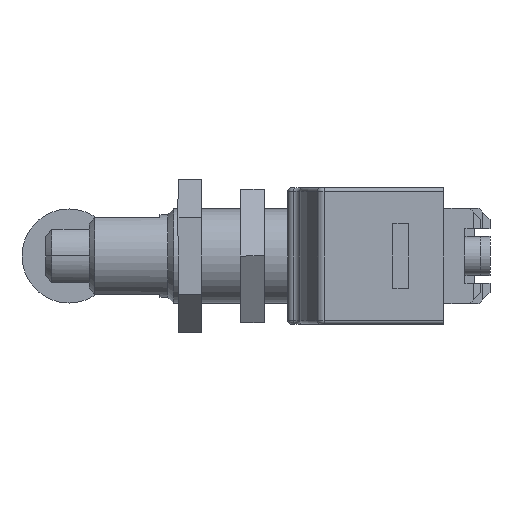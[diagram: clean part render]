
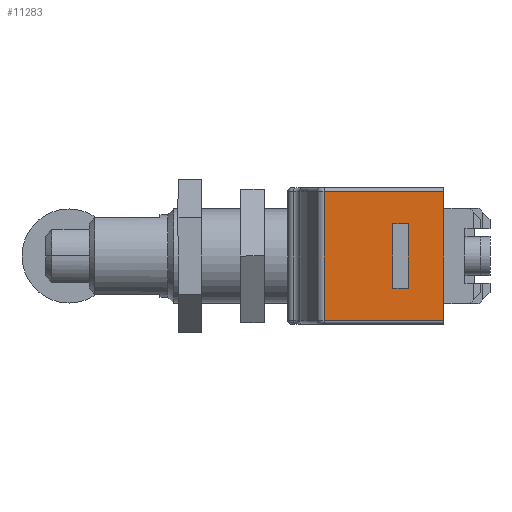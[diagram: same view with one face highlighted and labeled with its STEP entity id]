
A CAD part, left-side view. The second image highlights one B-rep face of the part: STEP entity #11283.
In plain terms, the highlighted planar face has unit normal (-1, 0, 0).
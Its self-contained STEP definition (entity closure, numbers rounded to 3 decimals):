
#3990 = LINE ( 'NONE', #4242, #4246 ) ;
#4242 = CARTESIAN_POINT ( 'NONE',  ( -35.2, 11.461, 8.2 ) ) ;
#4246 = VECTOR ( 'NONE', #4506, 1000. ) ;
#4506 = DIRECTION ( 'NONE',  ( 0., 1., 0. ) ) ;
#4680 = DIRECTION ( 'NONE',  ( 0., 0., 1. ) ) ;
#4681 = VECTOR ( 'NONE', #4680, 1000. ) ;
#4682 = CARTESIAN_POINT ( 'NONE',  ( -35.2, 2.7, 4.1 ) ) ;
#4683 = LINE ( 'NONE', #4682, #4681 ) ;
#4684 = DIRECTION ( 'NONE',  ( 0., 0., -1. ) ) ;
#4685 = DIRECTION ( 'NONE',  ( 1., 0., 0. ) ) ;
#4686 = AXIS2_PLACEMENT_3D ( 'NONE', #4687, #4685, #4684 ) ;
#4687 = CARTESIAN_POINT ( 'NONE',  ( -35.2, 11.461, 8.7 ) ) ;
#4688 = PLANE ( 'NONE',  #4686 ) ;
#4689 = FACE_BOUND ( 'NONE', #11304, .T. ) ;
#4690 = FACE_OUTER_BOUND ( 'NONE', #11365, .T. ) ;
#4695 = CARTESIAN_POINT ( 'NONE',  ( -35.2, 11.461, -8.2 ) ) ;
#4745 = CARTESIAN_POINT ( 'NONE',  ( -35.2, 0.7, -4.1 ) ) ;
#4771 = DIRECTION ( 'NONE',  ( 0., 0., -1. ) ) ;
#4772 = VECTOR ( 'NONE', #4771, 1000. ) ;
#4773 = CARTESIAN_POINT ( 'NONE',  ( -35.2, 11.461, 8.7 ) ) ;
#4774 = LINE ( 'NONE', #4773, #4772 ) ;
#4775 = DIRECTION ( 'NONE',  ( 0., -1., 0. ) ) ;
#4776 = VECTOR ( 'NONE', #4775, 1000. ) ;
#4777 = CARTESIAN_POINT ( 'NONE',  ( -35.2, 11.461, -8.2 ) ) ;
#4778 = LINE ( 'NONE', #4777, #4776 ) ;
#4810 = CARTESIAN_POINT ( 'NONE',  ( -35.2, 11.461, 8.2 ) ) ;
#4896 = DIRECTION ( 'NONE',  ( 0., 0., -1. ) ) ;
#4897 = VECTOR ( 'NONE', #4896, 1000. ) ;
#4898 = CARTESIAN_POINT ( 'NONE',  ( -35.2, 0.7, 4.1 ) ) ;
#4916 = LINE ( 'NONE', #4898, #4897 ) ;
#4917 = CARTESIAN_POINT ( 'NONE',  ( -35.2, 2.7, -4.1 ) ) ;
#4918 = CARTESIAN_POINT ( 'NONE',  ( -35.2, 2.7, 4.1 ) ) ;
#4919 = LINE ( 'NONE', #4975, #4974 ) ;
#4920 = DIRECTION ( 'NONE',  ( 0., -1., 0. ) ) ;
#4921 = VECTOR ( 'NONE', #4920, 1000. ) ;
#4922 = CARTESIAN_POINT ( 'NONE',  ( -35.2, 2.7, 4.1 ) ) ;
#4923 = LINE ( 'NONE', #4922, #4921 ) ;
#4924 = DIRECTION ( 'NONE',  ( 0., 1., 0. ) ) ;
#4925 = VECTOR ( 'NONE', #4924, 1000. ) ;
#4926 = CARTESIAN_POINT ( 'NONE',  ( -35.2, 2.7, -4.1 ) ) ;
#4927 = LINE ( 'NONE', #4926, #4925 ) ;
#4934 = CARTESIAN_POINT ( 'NONE',  ( -35.2, -3.8, -8.2 ) ) ;
#4936 = CARTESIAN_POINT ( 'NONE',  ( -35.2, -3.8, 8.2 ) ) ;
#4967 = CARTESIAN_POINT ( 'NONE',  ( -35.2, 0.7, 4.1 ) ) ;
#4973 = DIRECTION ( 'NONE',  ( 0., 0., -1. ) ) ;
#4974 = VECTOR ( 'NONE', #4973, 1000. ) ;
#4975 = CARTESIAN_POINT ( 'NONE',  ( -35.2, -3.8, 8.7 ) ) ;
#11280 = VERTEX_POINT ( 'NONE', #4695 ) ;
#11283 = ADVANCED_FACE ( 'NONE', ( #4690, #4689 ), #4688, .F. ) ;
#11284 = EDGE_CURVE ( 'NONE', #11338, #11360, #4683, .T. ) ;
#11286 = VERTEX_POINT ( 'NONE', #4745 ) ;
#11300 = ORIENTED_EDGE ( 'NONE', *, *, #11359, .T. ) ;
#11301 = ORIENTED_EDGE ( 'NONE', *, *, #11302, .T. ) ;
#11302 = EDGE_CURVE ( 'NONE', #11280, #11348, #4778, .T. ) ;
#11303 = ORIENTED_EDGE ( 'NONE', *, *, #11311, .T. ) ;
#11304 = EDGE_LOOP ( 'NONE', ( #11300, #11337, #11356, #11312 ) ) ;
#11305 = ORIENTED_EDGE ( 'NONE', *, *, #11306, .T. ) ;
#11306 = EDGE_CURVE ( 'NONE', #11313, #11280, #4774, .T. ) ;
#11311 = EDGE_CURVE ( 'NONE', #11345, #11313, #3990, .T. ) ;
#11312 = ORIENTED_EDGE ( 'NONE', *, *, #11284, .T. ) ;
#11313 = VERTEX_POINT ( 'NONE', #4810 ) ;
#11337 = ORIENTED_EDGE ( 'NONE', *, *, #11339, .T. ) ;
#11338 = VERTEX_POINT ( 'NONE', #4917 ) ;
#11339 = EDGE_CURVE ( 'NONE', #11364, #11286, #4916, .T. ) ;
#11345 = VERTEX_POINT ( 'NONE', #4936 ) ;
#11348 = VERTEX_POINT ( 'NONE', #4934 ) ;
#11349 = ORIENTED_EDGE ( 'NONE', *, *, #11361, .F. ) ;
#11356 = ORIENTED_EDGE ( 'NONE', *, *, #11357, .T. ) ;
#11357 = EDGE_CURVE ( 'NONE', #11286, #11338, #4927, .T. ) ;
#11359 = EDGE_CURVE ( 'NONE', #11360, #11364, #4923, .T. ) ;
#11360 = VERTEX_POINT ( 'NONE', #4918 ) ;
#11361 = EDGE_CURVE ( 'NONE', #11345, #11348, #4919, .T. ) ;
#11364 = VERTEX_POINT ( 'NONE', #4967 ) ;
#11365 = EDGE_LOOP ( 'NONE', ( #11305, #11301, #11349, #11303 ) ) ;
